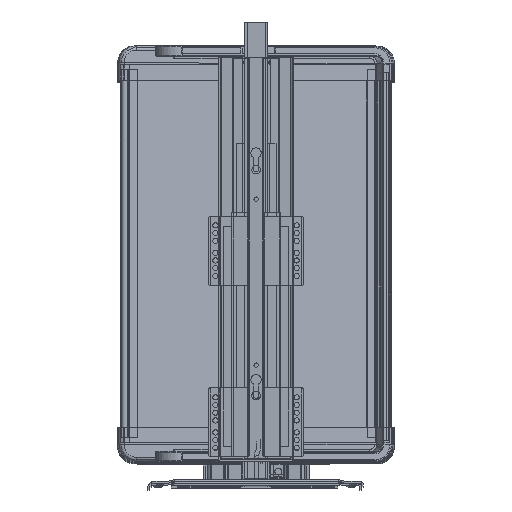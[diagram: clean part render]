
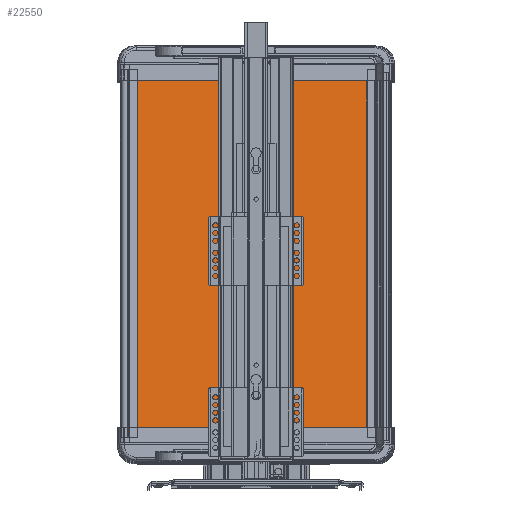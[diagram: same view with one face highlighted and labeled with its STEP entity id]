
A CAD part, top view. The second image highlights one B-rep face of the part: STEP entity #22550.
In plain terms, the highlighted planar face has unit normal (0.225, 0, 0.974) as drawn and (0, 0, 1) by its records, which use the part's own axes.
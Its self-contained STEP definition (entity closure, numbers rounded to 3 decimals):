
#1420=LINE('',#37272,#3348);
#1424=LINE('',#37280,#3352);
#1427=LINE('',#37286,#3355);
#1429=LINE('',#37289,#3357);
#3348=VECTOR('',#30164,1000.);
#3352=VECTOR('',#30170,1000.);
#3355=VECTOR('',#30175,1000.);
#3357=VECTOR('',#30179,1000.);
#5260=PLANE('',#24966);
#9458=ORIENTED_EDGE('',*,*,#13280,.F.);
#9459=ORIENTED_EDGE('',*,*,#13284,.T.);
#9460=ORIENTED_EDGE('',*,*,#13287,.T.);
#9461=ORIENTED_EDGE('',*,*,#13289,.F.);
#13280=EDGE_CURVE('',#15605,#15606,#1420,.T.);
#13284=EDGE_CURVE('',#15605,#15608,#1424,.T.);
#13287=EDGE_CURVE('',#15608,#15610,#1427,.T.);
#13289=EDGE_CURVE('',#15606,#15610,#1429,.T.);
#15605=VERTEX_POINT('',#37271);
#15606=VERTEX_POINT('',#37273);
#15608=VERTEX_POINT('',#37279);
#15610=VERTEX_POINT('',#37285);
#18646=EDGE_LOOP('',(#9458,#9459,#9460,#9461));
#20681=FACE_BOUND('',#18646,.T.);
#22550=ADVANCED_FACE('',(#20681),#5260,.T.);
#24966=AXIS2_PLACEMENT_3D('',#37290,#30180,#30181);
#30164=DIRECTION('',(-1.,0.,0.));
#30170=DIRECTION('',(0.,1.,0.));
#30175=DIRECTION('',(-1.,0.,0.));
#30179=DIRECTION('',(0.,1.,0.));
#30180=DIRECTION('',(0.,0.,1.));
#30181=DIRECTION('',(1.,0.,0.));
#37271=CARTESIAN_POINT('',(221.,-148.,6.));
#37272=CARTESIAN_POINT('',(0.,-148.,6.));
#37273=CARTESIAN_POINT('',(-221.,-148.,6.));
#37279=CARTESIAN_POINT('',(221.,148.,6.));
#37280=CARTESIAN_POINT('',(221.,0.,6.));
#37285=CARTESIAN_POINT('',(-221.,148.,6.));
#37286=CARTESIAN_POINT('',(0.,148.,6.));
#37289=CARTESIAN_POINT('',(-221.,0.,6.));
#37290=CARTESIAN_POINT('',(0.,0.,6.));
